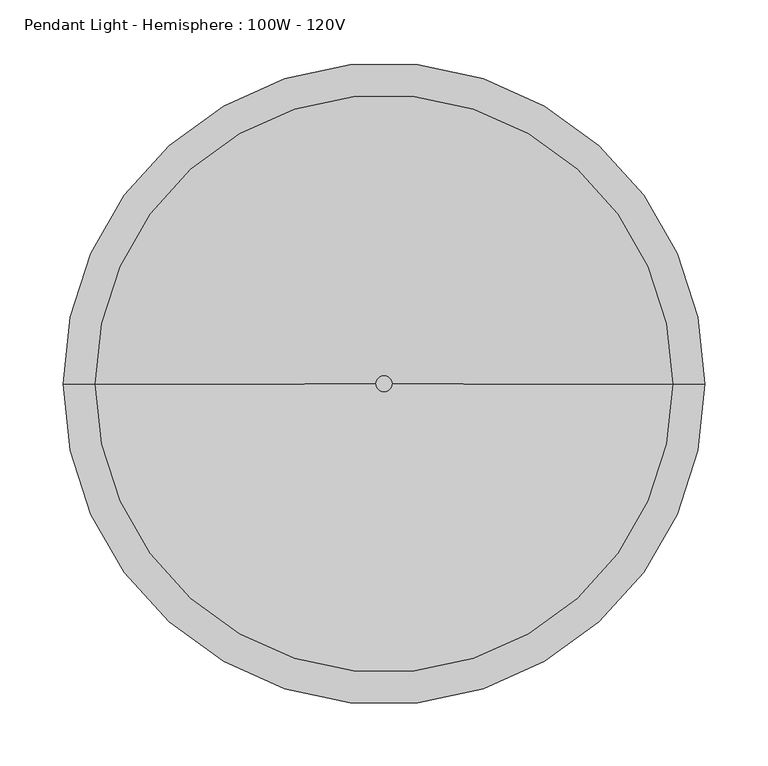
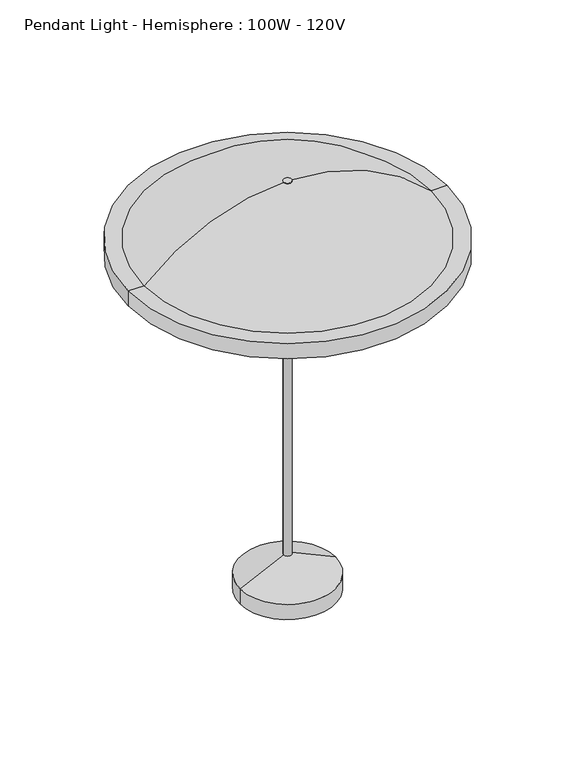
"""IFC4 building model written with IfcOpenShell, lengths in millimetres: light fixture geometry, Pendant Light - Hemisphere : 100W - 120V."""

import ifcopenshell
import ifcopenshell.guid

model = None  # the IFC model being written
_history = None  # IfcOwnerHistory: only IFC2X3 demands one
_inside = {}  # id of a spatial element -> (the spatial element, [elements in it])
_under = {}  # id of a project, library or spatial element -> (it, [spatial elements below it])
_declared = {}  # id of a project -> (the project, [libraries it declares])
_typed = {}  # id of a type object -> (the type object, [elements of that type])
_made_of = {}  # id of a material, layer set ... -> (it, [elements and type objects made of it])


def new_model(schema):
    """Start an empty IFC model of exactly this schema.

    Asked for "IFC4X3", IfcOpenShell would pick the latest addendum, in which some entities
    have other attributes; the version numbers below select the first issue.
    IFC2X3 requires an IfcOwnerHistory on every rooted entity: one is made here for all.
    """
    global model, _history
    if schema == "IFC4X3":
        model = ifcopenshell.file(schema_version=(4, 3, 0, 0))
    else:
        model = ifcopenshell.file(schema=schema)
    _inside.clear()
    _under.clear()
    _declared.clear()
    _typed.clear()
    _made_of.clear()
    _history = None
    if model.schema == "IFC2X3":
        org = make("IfcOrganization", Name="unknown")
        user = make(
            "IfcPersonAndOrganization",
            ThePerson=make("IfcPerson", FamilyName="unknown"),
            TheOrganization=org,
        )
        app = make(
            "IfcApplication",
            ApplicationDeveloper=org,
            Version="unknown",
            ApplicationFullName="unknown",
            ApplicationIdentifier="unknown",
        )
        _history = make(
            "IfcOwnerHistory",
            OwningUser=user,
            OwningApplication=app,
            ChangeAction="ADDED",
            CreationDate=0,
        )
    return model


def make(cls, **values):
    """One entity of the class cls with the attributes given. An attribute that is None is left unset."""
    return model.create_entity(
        cls, **{name: value for name, value in values.items() if value is not None}
    )


def rooted(cls, **values):
    """An entity with a GlobalId (a new one), such as an element, a storey or a relation."""
    return make(cls, GlobalId=ifcopenshell.guid.new(), OwnerHistory=_history, **values)


def si_unit(unit_type, name, prefix=None):
    """IfcSIUnit, for example si_unit("LENGTHUNIT", "METRE", prefix="MILLI")."""
    return make("IfcSIUnit", UnitType=unit_type, Prefix=prefix, Name=name)


def assignment(units):
    """IfcUnitAssignment: the units of a project."""
    return None if units is None else make("IfcUnitAssignment", Units=units)


def point(xyz):
    """IfcCartesianPoint."""
    return None if xyz is None else make("IfcCartesianPoint", Coordinates=xyz)


def direction(xyz):
    """IfcDirection."""
    return None if xyz is None else make("IfcDirection", DirectionRatios=xyz)


def frame(location, z_axis=None, x_axis=None):
    """IfcAxis2Placement3D, a coordinate frame: its origin and axes. An axis left out is left unset."""
    return make(
        "IfcAxis2Placement3D",
        Location=point(location),
        Axis=direction(z_axis),
        RefDirection=direction(x_axis),
    )


def origin():
    """The frame at (0, 0, 0) with its axes left unset."""
    return frame((0.0, 0.0, 0.0))


def origin_with_axes():
    """The frame at (0, 0, 0) with the z axis (0, 0, 1) and the x axis (1, 0, 0) written out."""
    return frame((0.0, 0.0, 0.0), z_axis=(0.0, 0.0, 1.0), x_axis=(1.0, 0.0, 0.0))


def place(relative_to, where):
    """IfcLocalPlacement: puts the frame where relative to a parent placement (None: the world)."""
    return make(
        "IfcLocalPlacement", PlacementRelTo=relative_to, RelativePlacement=where
    )


def context(
    kind, dimensions, precision=None, world=None, true_north=None, identifier=None
):
    """IfcGeometricRepresentationContext, for example the 3D "Model" context."""
    return make(
        "IfcGeometricRepresentationContext",
        ContextIdentifier=identifier,
        ContextType=kind,
        CoordinateSpaceDimension=dimensions,
        Precision=precision,
        WorldCoordinateSystem=world,
        TrueNorth=true_north,
    )


def project(units=None, contexts=None):
    """IfcProject with its units and contexts."""
    return rooted(
        "IfcProject",
        Name="project",
        RepresentationContexts=contexts,
        UnitsInContext=assignment(units),
    )


def spatial(cls, under=None, at=None, **own):
    """A site, building, storey or space (cls), placed at a placement, below another one or the project."""
    s = rooted(cls, ObjectPlacement=at, **own)
    if under is not None:
        _under.setdefault(under.id(), (under, []))[1].append(s)
    return s


def polyline(points):
    """IfcPolyline through the points."""
    return make("IfcPolyline", Points=[point(p) for p in points])


def circle_curve(where, radius):
    """IfcCircle in the frame where."""
    return make("IfcCircle", Position=where, Radius=radius)


def ellipse_curve(where, semi_axis1, semi_axis2):
    """IfcEllipse in the frame where."""
    return make(
        "IfcEllipse", Position=where, SemiAxis1=semi_axis1, SemiAxis2=semi_axis2
    )


def trimmed(basis, trim1, trim2, sense, master):
    """IfcTrimmedCurve: the piece of a basis curve between two trims."""
    return make(
        "IfcTrimmedCurve",
        BasisCurve=basis,
        Trim1=trim1,
        Trim2=trim2,
        SenseAgreement=sense,
        MasterRepresentation=master,
    )


def shape(context_of_items, identifier, shape_type, items):
    """IfcShapeRepresentation: the items that make up one representation, for example the "Body"."""
    return make(
        "IfcShapeRepresentation",
        ContextOfItems=context_of_items,
        RepresentationIdentifier=identifier,
        RepresentationType=shape_type,
        Items=items,
    )


def source(mapping_origin, context_of_items, identifier, shape_type, items):
    """IfcRepresentationMap: a shape defined once, which mapped items show again and again."""
    return make(
        "IfcRepresentationMap",
        MappingOrigin=mapping_origin,
        MappedRepresentation=shape(context_of_items, identifier, shape_type, items),
    )


def transform(
    local_origin,
    x_axis=None,
    y_axis=None,
    z_axis=None,
    scale=None,
    scale2=None,
    scale3=None,
    uniform=True,
):
    """IfcCartesianTransformationOperator3D, or its non-uniform kind. x_axis, y_axis, z_axis: its Axis1, 2, 3."""
    if uniform:
        return make(
            "IfcCartesianTransformationOperator3D",
            Axis1=direction(x_axis),
            Axis2=direction(y_axis),
            LocalOrigin=point(local_origin),
            Scale=scale,
            Axis3=direction(z_axis),
        )
    return make(
        "IfcCartesianTransformationOperator3DnonUniform",
        Axis1=direction(x_axis),
        Axis2=direction(y_axis),
        LocalOrigin=point(local_origin),
        Scale=scale,
        Axis3=direction(z_axis),
        Scale2=scale2,
        Scale3=scale3,
    )


def mapped(mapping_source, mapping_target):
    """IfcMappedItem: shows the shape of a source again, moved by a transform."""
    return make(
        "IfcMappedItem", MappingSource=mapping_source, MappingTarget=mapping_target
    )


def made_of(thing, what):
    """Note that an element or type object is made of a material, layer set ...; save() writes the relation."""
    if what is not None:
        _made_of.setdefault(what.id(), (what, []))[1].append(thing)
    return thing


def element(
    cls,
    number,
    at=None,
    inside=None,
    cuts=None,
    type_object=None,
    material=None,
    context=None,
    identifier="Body",
    shape_type=None,
    held_by="IfcProductDefinitionShape",
    body=None,
    shapes=None,
    **own,
):
    """One element of the class cls, such as IfcWall. Its Tag is "e" and its number.

    at: its placement. inside: the storey or other place that contains it. cuts: it is an
    opening in that element (IfcRelVoidsElement). A single representation is given by context,
    identifier, shape_type and body (its items); several are given by shapes. held_by: the class
    of the entity that holds the representations. save() writes the other relations.
    """
    e = rooted(cls, Tag="e%d" % number, ObjectPlacement=at, **own)
    if body is not None:
        shapes = [shape(context, identifier, shape_type, body)]
    if shapes is not None:
        e.Representation = make(held_by, Representations=shapes)
    if inside is not None:
        _inside.setdefault(inside.id(), (inside, []))[1].append(e)
    if cuts is not None:
        rooted(
            "IfcRelVoidsElement", RelatingBuildingElement=cuts, RelatedOpeningElement=e
        )
    if type_object is not None:
        _typed.setdefault(type_object.id(), (type_object, []))[1].append(e)
    return made_of(e, material)


def aggregate(whole, parts):
    """IfcRelAggregates: a whole, such as a stair, and the parts it consists of."""
    return rooted("IfcRelAggregates", RelatingObject=whole, RelatedObjects=parts)


def save(model, path):
    """Write the relations noted so far, then the file.

    IfcRelAggregates (storeys below a building ...), IfcRelContainedInSpatialStructure (elements
    in a storey), IfcRelDefinesByType, IfcRelAssociatesMaterial and IfcRelDeclares: one each for
    every whole, place, type object, material and project.
    """
    for whole, parts in _under.values():
        aggregate(whole, parts)
    for where, things in _inside.values():
        rooted(
            "IfcRelContainedInSpatialStructure",
            RelatedElements=things,
            RelatingStructure=where,
        )
    for kind, things in _typed.values():
        rooted("IfcRelDefinesByType", RelatedObjects=things, RelatingType=kind)
    for what, things in _made_of.values():
        rooted("IfcRelAssociatesMaterial", RelatedObjects=things, RelatingMaterial=what)
    for by, libraries in _declared.values():
        rooted("IfcRelDeclares", RelatingContext=by, RelatedDefinitions=libraries)
    model.write(path)


def plane_surface(at):
    """IfcPlane: the flat surface through the origin of the frame at, square to its z axis."""
    return make("IfcPlane", Position=at)


def cylinder_surface(at, radius):
    """IfcCylindricalSurface: all points at the distance radius from the z axis of the frame at."""
    return make("IfcCylindricalSurface", Position=at, Radius=radius)


def revolved_surface(curve, axis_point, axis_direction):
    """IfcSurfaceOfRevolution: the curve turned about the line through axis_point along axis_direction."""
    return make(
        "IfcSurfaceOfRevolution",
        SweptCurve=make("IfcArbitraryOpenProfileDef", ProfileType="CURVE", Curve=curve),
        AxisPosition=make("IfcAxis1Placement", Location=point(axis_point), Axis=direction(axis_direction)),
    )


def advanced_brep(points, edges, surfaces, faces):
    """IfcAdvancedBrep: a solid bounded by faces that lie on surfaces and meet in shared edges.

    An edge is (start, end): straight between two places in points (the first is 0);
    or (start, end, curve); or (start, end, curve, False) where it runs against its curve.
    A face is (place in surfaces, loops), or (place, loops, False) where it looks against
    its surface's normal. A loop lists edges by number (the first is 1), with a minus sign
    where the edge is run from its end to its start. The first loop is the outer one.
    """
    corners = [point(p) for p in points]
    vertices = [make("IfcVertexPoint", VertexGeometry=c) for c in corners]
    made = []
    for start, end, *more in edges:
        made.append(
            make(
                "IfcEdgeCurve",
                EdgeStart=vertices[start],
                EdgeEnd=vertices[end],
                EdgeGeometry=more[0] if more else make("IfcPolyline", Points=[corners[start], corners[end]]),
                SameSense=more[1] if len(more) > 1 else True,
            )
        )
    hull = []
    for where, loops, *sense in faces:
        bounds = []
        for j, loop in enumerate(loops):
            ring = [make("IfcOrientedEdge", EdgeElement=made[abs(k) - 1], Orientation=k > 0) for k in loop]
            bounds.append(
                make(
                    "IfcFaceOuterBound" if j == 0 else "IfcFaceBound",
                    Bound=make("IfcEdgeLoop", EdgeList=ring),
                    Orientation=True,
                )
            )
        hull.append(make("IfcAdvancedFace", Bounds=bounds, FaceSurface=surfaces[where], SameSense=sense[0] if sense else True))
    return make("IfcAdvancedBrep", Outer=make("IfcClosedShell", CfsFaces=hull))


def pendant_light_hemisphere_100w_120v_61837e73(model_context):
    return source(origin(), model_context, "Body", "AdvancedBrep", [
        advanced_brep(
        [(-6.35, 0.0, 685.8), (6.35, 0.0, 685.8), (-76.2, 0.0, 0.0), (76.2, 0.0, 0.0), (-6.35, 0.0, 58.1421875), (6.35, 0.0, 58.1421875), (76.2, 0.0, 25.4), (-76.2, 0.0, 25.4)],
        [
            (0, 1, circle_curve(frame((0.0, 0.0, 685.8), z_axis=(0.0, 0.0, 1.0), x_axis=(1.0, 0.0, 0.0)), 6.35)),
            (1, 0, circle_curve(frame((0.0, 0.0, 685.8), z_axis=(0.0, 0.0, 1.0), x_axis=(1.0, 0.0, 0.0)), 6.35)),
            (2, 3, circle_curve(frame((0.0, 0.0, 0.0), z_axis=(0.0, 0.0, -1.0), x_axis=(-1.0, 0.0, 0.0)), 76.2)),
            (3, 2, circle_curve(frame((0.0, 0.0, 0.0), z_axis=(0.0, 0.0, -1.0), x_axis=(-1.0, 0.0, 0.0)), 76.2)),
            (0, 4),
            (4, 5, circle_curve(frame((0.0, 0.0, 58.1421875), z_axis=(0.0, 0.0, 1.0), x_axis=(1.0, 0.0, 0.0)), 6.35)),
            (5, 1),
            (5, 4, circle_curve(frame((0.0, 0.0, 58.1421875), z_axis=(0.0, 0.0, 1.0), x_axis=(1.0, 0.0, 0.0)), 6.35)),
            (6, 7, circle_curve(frame((0.0, 0.0, 25.4), z_axis=(0.0, 0.0, 1.0), x_axis=(-1.0, 0.0, 0.0)), 76.2)),
            (7, 4),
            (5, 6),
            (7, 6, circle_curve(frame((0.0, 0.0, 25.4), z_axis=(0.0, 0.0, 1.0), x_axis=(-1.0, 0.0, 0.0)), 76.2)),
            (2, 7),
            (6, 3),
        ],
        [
            plane_surface(frame((6.35, 0.0, 685.8), z_axis=(0.0, 0.0, 1.0), x_axis=(0.0, 1.0, 0.0))),
            plane_surface(frame((6.35, 0.0, 0.0), z_axis=(0.0, 0.0, -1.0), x_axis=(0.0, -1.0, 0.0))),
            cylinder_surface(origin_with_axes(), 6.35),
            revolved_surface(polyline([(0.0, 0.0, 61.11875), (-76.2, 0.0, 25.4)]), (0.0, 0.0, -44.5149987), (0.0, 0.0, -1.0)),
            cylinder_surface(frame((0.0, 0.0, -44.5149987), z_axis=(0.0, 0.0, -1.0), x_axis=(-1.0, 0.0, 0.0)), 76.2),
        ],
        [
            (0, [[1, 2]]),
            (1, [[3, 4]]),
            (2, [[-1, 5, 6, 7]]),
            (2, [[-2, -7, 8, -5]]),
            (3, [[9, 10, -8, 11]]),
            (3, [[12, -11, -6, -10]]),
            (4, [[-3, 13, -9, 14]]),
            (4, [[-4, -14, -12, -13]]),
        ],
    ),
        advanced_brep(
        [(218.28125, 0.0, 563.5625), (-218.28125, 0.0, 563.5625), (-254.0, 0.0, 563.5625), (254.0, 0.0, 563.5625), (0.0, 0.0, 660.4), (228.6, 0.0, 588.9625), (-228.6, 0.0, 588.9625), (0.0, 0.0, 685.8), (254.0, 0.0, 588.9625), (-254.0, 0.0, 588.9625)],
        [
            (0, 1, circle_curve(frame((0.0, 0.0, 563.5625), z_axis=(0.0, 0.0, 1.0), x_axis=(-1.0, 0.0, 0.0)), 218.28125)),
            (1, 2),
            (2, 3, circle_curve(frame((0.0, 0.0, 563.5625), z_axis=(0.0, 0.0, -1.0), x_axis=(-1.0, 0.0, 0.0)), 254.0)),
            (3, 0),
            (1, 0, circle_curve(frame((0.0, 0.0, 563.5625), z_axis=(0.0, 0.0, 1.0), x_axis=(-1.0, 0.0, 0.0)), 218.28125)),
            (3, 2, circle_curve(frame((0.0, 0.0, 563.5625), z_axis=(0.0, 0.0, -1.0), x_axis=(-1.0, 0.0, 0.0)), 254.0)),
            (4, 1, circle_curve(frame((7.2905558, 0.0, 349.5339163), z_axis=(0.0, -1.0, 0.0), x_axis=(1.0, 0.0, 0.0)), 310.9515625)),
            (0, 4, circle_curve(frame((-7.2905558, 0.0, 349.5339163), z_axis=(0.0, -1.0, 0.0), x_axis=(-1.0, 0.0, 0.0)), 310.9515625)),
            (5, 6, circle_curve(frame((0.0, 0.0, 588.9625), z_axis=(0.0, 0.0, 1.0), x_axis=(-1.0, 0.0, 0.0)), 228.6)),
            (6, 7, circle_curve(frame((6.0510717, 0.0, 353.273802), z_axis=(0.0, 1.0, 0.0), x_axis=(1.0, 0.0, 0.0)), 332.58125)),
            (7, 5, circle_curve(frame((-6.0510717, 0.0, 353.273802), z_axis=(0.0, 1.0, 0.0), x_axis=(-1.0, 0.0, 0.0)), 332.58125)),
            (6, 5, circle_curve(frame((0.0, 0.0, 588.9625), z_axis=(0.0, 0.0, 1.0), x_axis=(-1.0, 0.0, 0.0)), 228.6)),
            (8, 9, circle_curve(frame((0.0, 0.0, 588.9625), z_axis=(0.0, 0.0, 1.0), x_axis=(-1.0, 0.0, 0.0)), 254.0)),
            (9, 6),
            (5, 8),
            (9, 8, circle_curve(frame((0.0, 0.0, 588.9625), z_axis=(0.0, 0.0, 1.0), x_axis=(-1.0, 0.0, 0.0)), 254.0)),
            (2, 9),
            (8, 3),
        ],
        [
            plane_surface(frame((0.0, 0.0, 563.5625), z_axis=(0.0, 0.0, -1.0), x_axis=(-1.0, 0.0, 0.0))),
            revolved_surface(trimmed(ellipse_curve(frame((7.2905558, 0.0, 349.5339163), z_axis=(0.0, 1.0, 0.0), x_axis=(1.0, 0.0, 0.0)), 310.9515625, 310.9515625), [point((-218.28125, 0.0, 563.5625))], [point((0.0, 0.0, 660.4))], True, "CARTESIAN"), (0.0, 0.0, 636.7377177), (0.0, 0.0, -1.0)),
            revolved_surface(trimmed(ellipse_curve(frame((6.0510717, 0.0, 353.273802), z_axis=(0.0, -1.0, 0.0), x_axis=(1.0, 0.0, 0.0)), 332.58125, 332.58125), [point((0.0, 0.0, 685.8))], [point((-228.6, 0.0, 588.9625))], True, "CARTESIAN"), (0.0, 0.0, 636.7377177), (0.0, 0.0, -1.0)),
            plane_surface(frame((0.0, 0.0, 588.9625), z_axis=(0.0, 0.0, 1.0), x_axis=(-1.0, 0.0, 0.0))),
            cylinder_surface(frame((0.0, 0.0, 636.7377177), z_axis=(0.0, 0.0, -1.0), x_axis=(-1.0, 0.0, 0.0)), 254.0),
        ],
        [
            (0, [[1, 2, 3, 4]]),
            (0, [[5, -4, 6, -2]]),
            (1, [[7, -1, 8]]),
            (1, [[-8, -5, -7]]),
            (2, [[9, 10, 11]]),
            (2, [[12, -11, -10]]),
            (3, [[13, 14, -9, 15]]),
            (3, [[16, -15, -12, -14]]),
            (4, [[-3, 17, -13, 18]]),
            (4, [[-6, -18, -16, -17]]),
        ],
    ),
    ])


if __name__ == "__main__":
    model = new_model("IFC4")
    model_context = context("Model", 3, world=origin())
    ifc_project = project(units=[si_unit("LENGTHUNIT", "METRE", prefix="MILLI")], contexts=[model_context])
    site = spatial("IfcSite", under=ifc_project)
    building = spatial("IfcBuilding", under=site)
    placement = place(None, origin())
    pendant_light_hemisphere_100w_120v_shape = pendant_light_hemisphere_100w_120v_61837e73(model_context)
    element("IfcLightFixture", 1, ObjectType="Pendant Light - Hemisphere : 100W - 120V", at=placement, inside=building, context=model_context, shape_type="MappedRepresentation", body=[
        mapped(pendant_light_hemisphere_100w_120v_shape, transform((0.0, 0.0, 0.0), x_axis=(1.0, 0.0, 0.0), y_axis=(0.0, 1.0, 0.0), z_axis=(0.0, 0.0, 1.0))),
    ])
    save(model, "model.ifc")
